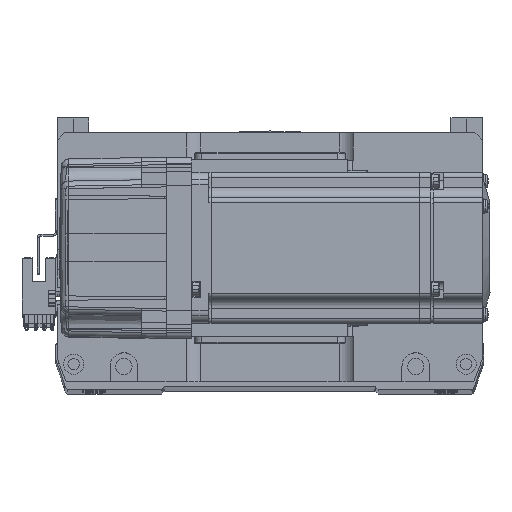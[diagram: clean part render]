
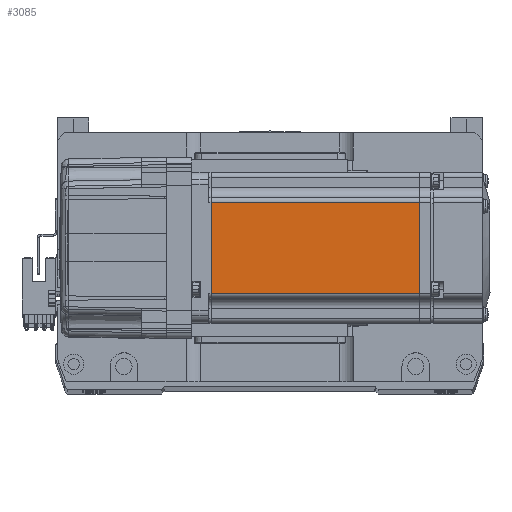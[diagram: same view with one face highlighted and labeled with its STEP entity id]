
A CAD part, top view. The second image highlights one B-rep face of the part: STEP entity #3085.
In plain terms, the highlighted planar face has unit normal (0, 0, 1) as drawn and (0, -1, 0) by its records, which use the part's own axes.
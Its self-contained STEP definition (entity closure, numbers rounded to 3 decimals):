
#1816 = ORIENTED_EDGE ( 'NONE', *, *, #8384, .T. ) ;
#2593 = AXIS2_PLACEMENT_3D ( 'NONE', #38698, #5487, #54254 ) ;
#3085 = ADVANCED_FACE ( 'NONE', ( #57158 ), #33995, .T. ) ;
#5487 = DIRECTION ( 'NONE',  ( 0., -1., 0. ) ) ;
#6476 = DIRECTION ( 'NONE',  ( 0., 0., -1. ) ) ;
#6697 = VERTEX_POINT ( 'NONE', #17700 ) ;
#8384 = EDGE_CURVE ( 'NONE', #6697, #15690, #62987, .T. ) ;
#8527 = VECTOR ( 'NONE', #31697, 1000. ) ;
#8663 = CARTESIAN_POINT ( 'NONE',  ( -6.5, -30., -18. ) ) ;
#9705 = LINE ( 'NONE', #8663, #33311 ) ;
#15690 = VERTEX_POINT ( 'NONE', #62400 ) ;
#17700 = CARTESIAN_POINT ( 'NONE',  ( -90.45, -30., 18. ) ) ;
#19648 = ORIENTED_EDGE ( 'NONE', *, *, #34459, .T. ) ;
#21957 = VECTOR ( 'NONE', #35136, 1000. ) ;
#30260 = VECTOR ( 'NONE', #6476, 1000. ) ;
#31280 = EDGE_CURVE ( 'NONE', #40980, #6697, #35543, .T. ) ;
#31697 = DIRECTION ( 'NONE',  ( 0., 0., 1. ) ) ;
#33311 = VECTOR ( 'NONE', #42294, 1000. ) ;
#33995 = PLANE ( 'NONE',  #2593 ) ;
#34459 = EDGE_CURVE ( 'NONE', #46670, #40980, #35142, .T. ) ;
#35136 = DIRECTION ( 'NONE',  ( -1., 0., 0. ) ) ;
#35142 = LINE ( 'NONE', #60855, #8527 ) ;
#35524 = CARTESIAN_POINT ( 'NONE',  ( -7.75, -30., -18. ) ) ;
#35543 = LINE ( 'NONE', #40045, #21957 ) ;
#36974 = CARTESIAN_POINT ( 'NONE',  ( -7.75, -30., 18. ) ) ;
#38698 = CARTESIAN_POINT ( 'NONE',  ( -6.5, -30., -25. ) ) ;
#40045 = CARTESIAN_POINT ( 'NONE',  ( -6.5, -30., 18. ) ) ;
#40980 = VERTEX_POINT ( 'NONE', #36974 ) ;
#42294 = DIRECTION ( 'NONE',  ( 1., 0., 0. ) ) ;
#45559 = ORIENTED_EDGE ( 'NONE', *, *, #31280, .T. ) ;
#46670 = VERTEX_POINT ( 'NONE', #35524 ) ;
#49748 = ORIENTED_EDGE ( 'NONE', *, *, #58806, .T. ) ;
#54254 = DIRECTION ( 'NONE',  ( 0., 0., -1. ) ) ;
#54277 = EDGE_LOOP ( 'NONE', ( #19648, #45559, #1816, #49748 ) ) ;
#55032 = CARTESIAN_POINT ( 'NONE',  ( -90.45, -30., -25. ) ) ;
#57158 = FACE_OUTER_BOUND ( 'NONE', #54277, .T. ) ;
#58806 = EDGE_CURVE ( 'NONE', #15690, #46670, #9705, .T. ) ;
#60855 = CARTESIAN_POINT ( 'NONE',  ( -7.75, -30., -25. ) ) ;
#62400 = CARTESIAN_POINT ( 'NONE',  ( -90.45, -30., -18. ) ) ;
#62987 = LINE ( 'NONE', #55032, #30260 ) ;
